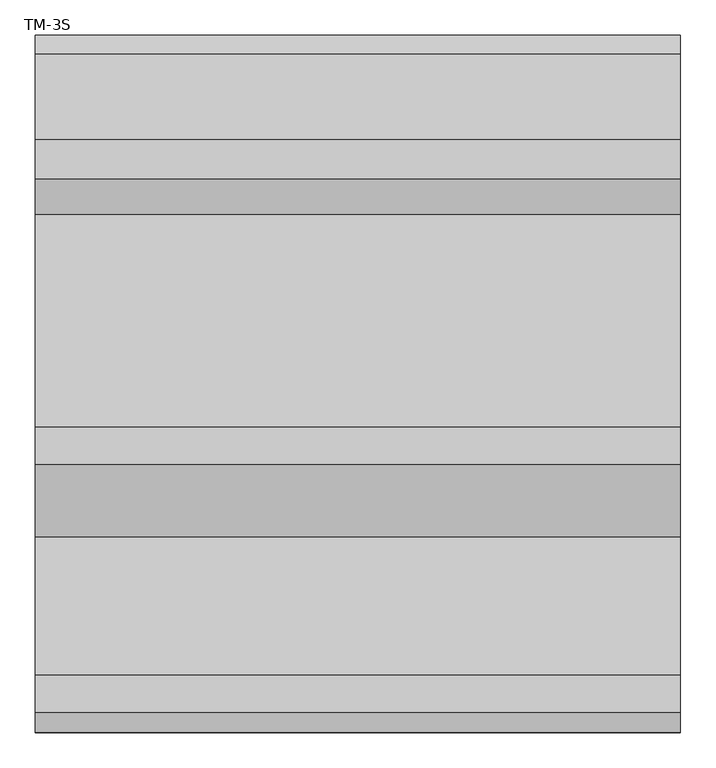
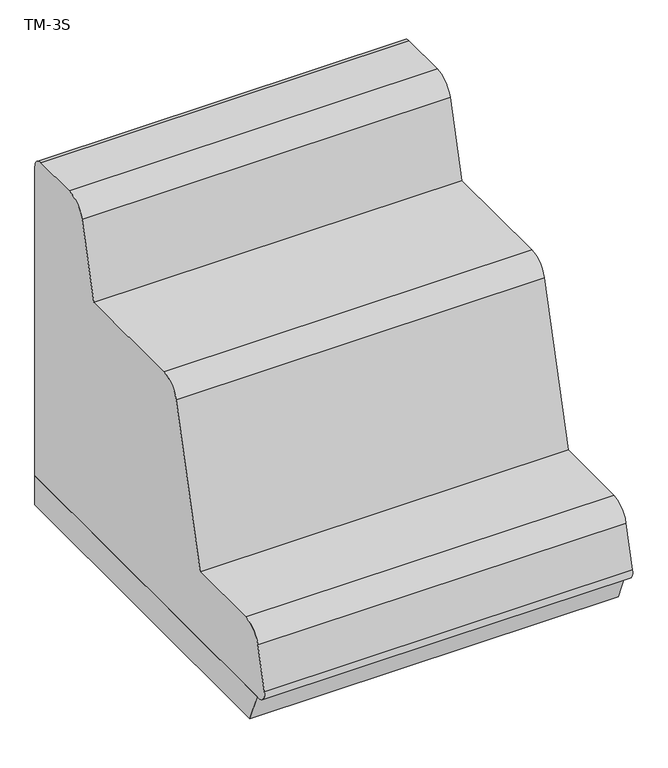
"""IFC4 building model written with IfcOpenShell, lengths in millimetres: furniture geometry, TM3S-CF_Group-Moss_Tier-3_Level-Straight : TM-3S."""

from ifc_helpers import new_model, si_unit, point, frame, frame_2d, origin, place, context, project, spatial, polyline, circle_curve, trimmed, segment, composite_curve, outline, extrude, source, transform, mapped, element, save


def tm_3s_7ce47026(model_context):
    return source(origin(), model_context, "Body", "SweptSolid", [
        extrude(outline(polyline([(494.2476215, 0.0), (-431.3087475, 0.0), (-462.1316834, 76.1939466), (494.2476215, 76.1939466), (494.2476215, 0.0)])), frame((-457.2, 0.0, 0.0), z_axis=(1.0, 0.0, 0.0), x_axis=(0.0, 1.0, 0.0)), (0.0, 0.0, 1.0), 914.4),
        extrude(outline(composite_curve([segment(polyline([(240.248136, 685.8005996), (290.9639831, 873.5896504)]), True, "CONTINUOUS"), segment(trimmed(circle_curve(frame_2d((346.8487312, 855.7319048)), 58.6685959), [point((290.9639831, 873.5896504))], [point((346.8487312, 914.4005007))], False, "CARTESIAN"), True, "CONTINUOUS"), segment(polyline([(346.8487312, 914.4005007), (468.2684073, 914.4005007)]), True, "CONTINUOUS"), segment(trimmed(circle_curve(frame_2d((468.2684073, 888.4212865)), 25.9792142), [point((468.2684073, 914.4005007))], [point((494.2476215, 888.4212865))], False, "CARTESIAN"), True, "CONTINUOUS"), segment(polyline([(494.2476215, 888.4212865), (494.2476215, 76.2), (-468.8473022, 76.1878931)]), True, "CONTINUOUS"), segment(trimmed(circle_curve(frame_2d((-468.8476215, 101.5878931)), 25.4), [point((-468.8473022, 76.1878931))], [point((-493.4166446, 108.0317355))], False, "CARTESIAN"), True, "CONTINUOUS"), segment(polyline([(-493.4166446, 108.0317355), (-465.5464372, 214.2950075)]), True, "CONTINUOUS"), segment(trimmed(circle_curve(frame_2d((-412.148392, 200.2900313)), 55.2040813), [point((-465.5464372, 214.2950075))], [point((-412.148392, 255.4941126))], False, "CARTESIAN"), True, "CONTINUOUS"), segment(polyline([(-412.148392, 255.4941126), (-216.9516548, 255.4941126), (-113.6732628, 644.7538127)]), True, "CONTINUOUS"), segment(trimmed(circle_curve(frame_2d((-60.3157713, 630.5970019)), 55.2035976), [point((-113.6732628, 644.7538127))], [point((-60.3157713, 685.8005996))], False, "CARTESIAN"), True, "CONTINUOUS"), segment(polyline([(-60.3157713, 685.8005996), (240.248136, 685.8005996)]), True, "CONTINUOUS")], self_intersect=False)), frame((-457.2, 0.0, 0.0), z_axis=(1.0, 0.0, 0.0), x_axis=(0.0, 1.0, 0.0)), (0.0, 0.0, 1.0), 914.4),
    ])


if __name__ == "__main__":
    model = new_model("IFC4")
    model_context = context("Model", 3, world=origin())
    ifc_project = project(units=[si_unit("LENGTHUNIT", "METRE", prefix="MILLI")], contexts=[model_context])
    site = spatial("IfcSite", under=ifc_project)
    building = spatial("IfcBuilding", under=site)
    placement = place(None, origin())
    tm_3s_shape = tm_3s_7ce47026(model_context)
    element("IfcFurniture", 1, ObjectType="TM3S-CF_Group-Moss_Tier-3_Level-Straight : TM-3S", at=placement, inside=building, context=model_context, shape_type="MappedRepresentation", body=[
        mapped(tm_3s_shape, transform((0.0, 0.0, 0.0), x_axis=(1.0, 0.0, 0.0), y_axis=(0.0, 1.0, 0.0), z_axis=(0.0, 0.0, 1.0))),
    ])
    save(model, "model.ifc")
